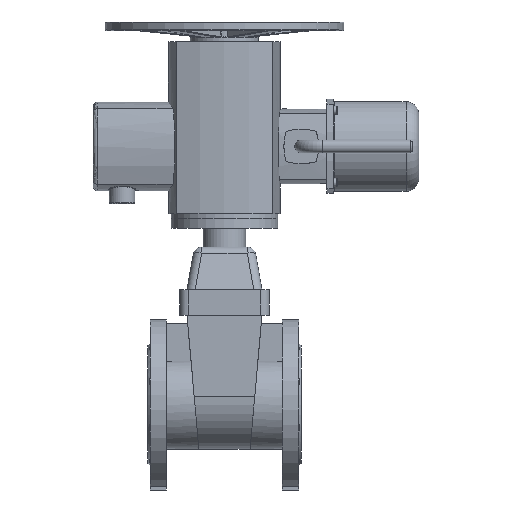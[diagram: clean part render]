
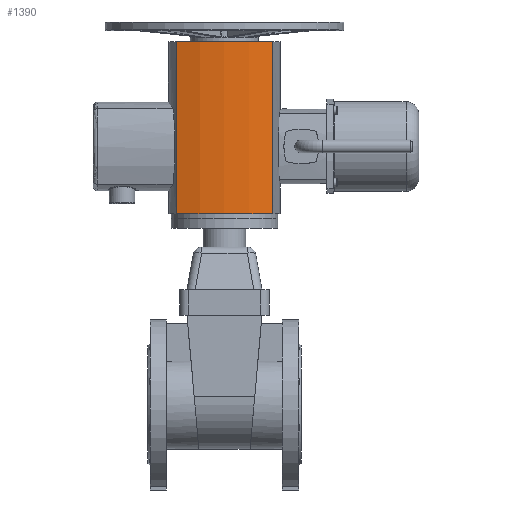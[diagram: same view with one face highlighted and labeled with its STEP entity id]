
A CAD part, left-side view. The second image highlights one B-rep face of the part: STEP entity #1390.
In plain terms, the highlighted cylindrical face has radius 180 mm (diameter 360 mm), a partial arc.
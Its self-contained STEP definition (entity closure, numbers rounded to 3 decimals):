
#1390=ADVANCED_FACE('',(#5062),#5064,.T.);
#5062=FACE_BOUND('',#5063,.T.);
#5063=EDGE_LOOP('',(#8268,#8269,#8270,#8271));
#5064=CYLINDRICAL_SURFACE('',#5065,180.);
#5065=AXIS2_PLACEMENT_3D('',#5066,#5067,#5068);
#5066=CARTESIAN_POINT('',(114.312,0.,224.));
#5067=DIRECTION('',(0.,0.,1.));
#5068=DIRECTION('',(-0.949,0.314,0.));
#8268=ORIENTED_EDGE('',*,*,#9663,.T.);
#8269=ORIENTED_EDGE('',*,*,#9659,.T.);
#8270=ORIENTED_EDGE('',*,*,#9672,.F.);
#8271=ORIENTED_EDGE('',*,*,#9666,.F.);
#9659=EDGE_CURVE('',#10793,#10791,#10794,.T.);
#9663=EDGE_CURVE('',#10799,#10793,#10800,.T.);
#9666=EDGE_CURVE('',#10799,#10804,#10805,.T.);
#9672=EDGE_CURVE('',#10804,#10791,#10815,.T.);
#10791=VERTEX_POINT('',#14833);
#10793=VERTEX_POINT('',#14838);
#10794=LINE('',#14839,#14840);
#10799=VERTEX_POINT('',#14917);
#10800=CIRCLE('',#14918,180.);
#10804=VERTEX_POINT('',#14931);
#10805=LINE('',#14932,#14933);
#10815=CIRCLE('',#15134,180.);
#14833=CARTESIAN_POINT('',(-56.569,-56.569,426.));
#14838=CARTESIAN_POINT('',(-56.569,-56.569,224.));
#14839=CARTESIAN_POINT('',(-56.569,-56.569,224.));
#14840=VECTOR('',#14841,1.);
#14841=DIRECTION('',(0.,0.,1.));
#14917=CARTESIAN_POINT('',(-56.569,56.569,224.));
#14918=AXIS2_PLACEMENT_3D('',#14919,#14920,#14921);
#14919=CARTESIAN_POINT('',(114.312,0.,224.));
#14920=DIRECTION('',(0.,0.,1.));
#14921=DIRECTION('',(-0.949,0.314,0.));
#14931=CARTESIAN_POINT('',(-56.569,56.569,426.));
#14932=CARTESIAN_POINT('',(-56.569,56.569,224.));
#14933=VECTOR('',#14934,1.);
#14934=DIRECTION('',(0.,0.,1.));
#15134=AXIS2_PLACEMENT_3D('',#15135,#15136,#15137);
#15135=CARTESIAN_POINT('',(114.312,0.,426.));
#15136=DIRECTION('',(0.,0.,1.));
#15137=DIRECTION('',(-0.949,0.314,0.));
